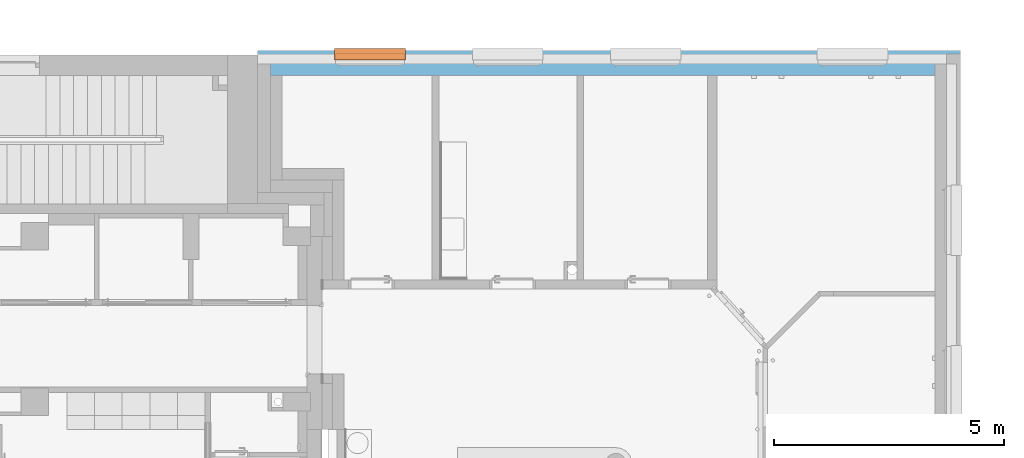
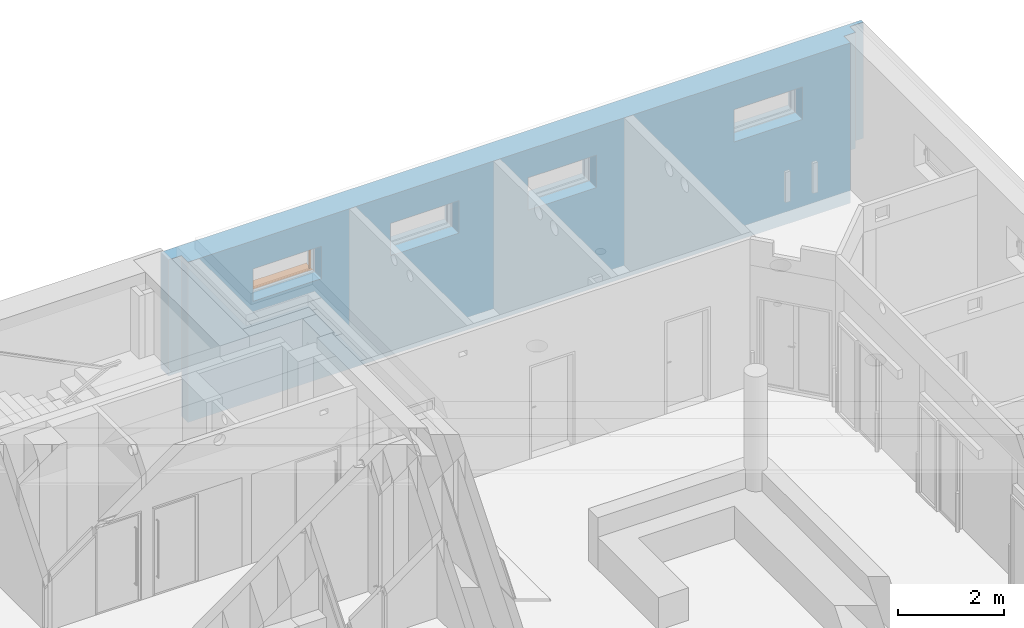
# One storey, part 124 of 140: 2 proxies, 4 openings, plus 1 element that does not belong to this part.
"""IFC4 building model written with IfcOpenShell, lengths in metres."""

from ifc_helpers import new_model, entity, si_unit, converted_unit, derived_unit, frame, origin, origin_with_axes, place, context, subcontext, project, spatial, polyline, outline, extrude, clip, bounded_halfspace, faceted_brep, source, transform, mapped, material, layer, layer_set, layer_usage, element, fill, save


model = new_model("IFC4")

# Units and contexts
model_context = context("Model", 3, precision=1e-05, world=origin())
body_context = subcontext(model_context, "Body", "Model", "MODEL_VIEW")
ifc_project = project(units=[si_unit("LENGTHUNIT", "METRE"), si_unit("AREAUNIT", "SQUARE_METRE"), si_unit("VOLUMEUNIT", "CUBIC_METRE"), si_unit("MASSUNIT", "GRAM", prefix="KILO"), converted_unit("PLANEANGLEUNIT", "DEGREE", entity("IfcPlaneAngleMeasure", 0.0174532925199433), si_unit("PLANEANGLEUNIT", "RADIAN"), dimensions=[0, 0, 0, 0, 0, 0, 0]), derived_unit("THERMALTRANSMITTANCEUNIT", [(si_unit("POWERUNIT", "WATT"), 1), (si_unit("THERMODYNAMICTEMPERATUREUNIT", "KELVIN"), -1), (si_unit("LENGTHUNIT", "METRE"), -2)]), derived_unit("VOLUMETRICFLOWRATEUNIT", [(si_unit("LENGTHUNIT", "METRE"), 3), (converted_unit("TIMEUNIT", "hour", entity("IfcTimeMeasure", 3600.0), si_unit("TIMEUNIT", "SECOND"), dimensions=[0, 0, 1, 0, 0, 0, 0]), -1), (si_unit("LENGTHUNIT", "METRE"), -1)])], contexts=[model_context])

# Site, building, storey
site_placement = place(None, origin())
site = spatial("IfcSite", under=ifc_project, at=site_placement, Name="3. ASŘ", CompositionType="ELEMENT")
building_placement = place(site_placement, origin())
building = spatial("IfcBuilding", under=site, at=building_placement, Name="Pavilon C", CompositionType="ELEMENT")
storey_placement = place(building_placement, origin())
storey = spatial("IfcBuildingStorey", under=building, at=storey_placement, Name="Půdorys 1.NP", CompositionType="ELEMENT", Elevation=0.0)

# Wall, openings, proxies
ifc_material_1 = material(Name="ZELEZOBETONOVÁ KCE")
ifc_layer_1 = layer(ifc_material_1, 0.25)
ifc_material_2 = material(Name="MINERÁLNÍ VATA")
ifc_layer_2 = layer(ifc_material_2, 0.3)
ifc_layer_set = layer_set([ifc_layer_1, ifc_layer_2])
ifc_layer_usage = layer_usage(ifc_layer_set, "AXIS2", "POSITIVE", 0.0)
wall_placement = place(storey_placement, frame((49.08, 32.3, -0.3)))
wall = element("IfcWall", 1, at=wall_placement, inside=storey, material=ifc_layer_usage, Name="ZELEZOBETONOVÁ KCE", context=body_context, shape_type="Clipping", body=[
    clip(extrude(outline(polyline([(0.280000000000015, 0.0), (14.75, 0.0), (14.75, 0.25), (15.0, 0.25), (15.0, 0.47), (15.3, 0.47), (15.3, 0.55), (0.0, 0.55), (0.0, 0.25), (0.280000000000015, 0.25), (0.280000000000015, 0.0)])), frame((-0.280000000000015, 0.0, 0.0), z_axis=(0.0, 0.0, 1.0), x_axis=(1.0, 0.0, 0.0)), (0.0, 0.0, 1.0), 3.7), bounded_halfspace(frame((9.17374999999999, 0.380000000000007, 1.02), z_axis=(0.0, 0.0, 1.0), x_axis=(0.0, -1.0, 0.0)), True, origin_with_axes(), polyline([(-0.280000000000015, 0.55), (-0.280000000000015, 0.250000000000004), (7.27595761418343e-15, 0.25), (14.47, 0.25), (14.72, 0.250000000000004), (14.72, 0.47), (15.02, 0.47), (15.02, 0.55), (-0.280000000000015, 0.55)]))),
])
opening_1_placement = place(wall_placement, frame((13.42, 0.25, 2.3), z_axis=(0.0, -1.0, 0.0), x_axis=(0.0, 0.0, 1.0)))
element("IfcOpeningElement", 2, at=opening_1_placement, cuts=wall, Name="Okenní otvor", ObjectType="Opening", context=body_context, shape_type="SweptSolid", body=[
    extrude(outline(polyline([(0.0, 1.5), (0.75, 1.5), (0.75, 0.0), (0.0, 0.0), (0.0, 1.5)])), origin_with_axes(), (0.0, 0.0, 1.0), 0.25),
    extrude(outline(polyline([(0.0, 1.5), (0.75, 1.5), (0.75, 0.0), (0.0, 0.0), (0.0, 1.5)])), frame((0.0, 0.0, -0.3), z_axis=(0.0, 0.0, 1.0), x_axis=(1.0, 0.0, 0.0)), (0.0, 0.0, 1.0), 0.3),
])
opening_2_placement = place(wall_placement, frame((8.92, 0.25, 2.3), z_axis=(0.0, -1.0, 0.0), x_axis=(0.0, 0.0, 1.0)))
element("IfcOpeningElement", 3, at=opening_2_placement, cuts=wall, Name="Okenní otvor", ObjectType="Opening", context=body_context, shape_type="SweptSolid", body=[
    extrude(outline(polyline([(0.0, 1.5), (0.75, 1.5), (0.75, 0.0), (0.0, 0.0), (0.0, 1.5)])), origin_with_axes(), (0.0, 0.0, 1.0), 0.25),
    extrude(outline(polyline([(0.0, 1.5), (0.75, 1.5), (0.75, 0.0), (0.0, 0.0), (0.0, 1.5)])), frame((0.0, 0.0, -0.3), z_axis=(0.0, 0.0, 1.0), x_axis=(1.0, 0.0, 0.0)), (0.0, 0.0, 1.0), 0.3),
])
opening_3_placement = place(wall_placement, frame((5.92, 0.25, 2.3), z_axis=(0.0, -1.0, 0.0), x_axis=(0.0, 0.0, 1.0)))
element("IfcOpeningElement", 4, at=opening_3_placement, cuts=wall, Name="Okenní otvor", ObjectType="Opening", context=body_context, shape_type="SweptSolid", body=[
    extrude(outline(polyline([(0.0, 1.5), (0.75, 1.5), (0.75, 0.0), (0.0, 0.0), (0.0, 1.5)])), origin_with_axes(), (0.0, 0.0, 1.0), 0.25),
    extrude(outline(polyline([(0.0, 1.5), (0.75, 1.5), (0.75, 0.0), (0.0, 0.0), (0.0, 1.5)])), frame((0.0, 0.0, -0.3), z_axis=(0.0, 0.0, 1.0), x_axis=(1.0, 0.0, 0.0)), (0.0, 0.0, 1.0), 0.3),
])
opening_4_placement = place(wall_placement, frame((2.92, 0.25, 2.3), z_axis=(0.0, -1.0, 0.0), x_axis=(0.0, 0.0, 1.0)))
opening_4 = element("IfcOpeningElement", 5, at=opening_4_placement, cuts=wall, Name="Okenní otvor", ObjectType="Opening", context=body_context, shape_type="SweptSolid", body=[
    extrude(outline(polyline([(0.0, 1.5), (0.75, 1.5), (0.75, 0.0), (0.0, 0.0), (0.0, 1.5)])), origin_with_axes(), (0.0, 0.0, 1.0), 0.25),
    extrude(outline(polyline([(0.0, 1.5), (0.75, 1.5), (0.75, 0.0), (0.0, 0.0), (0.0, 1.5)])), frame((0.0, 0.0, -0.3), z_axis=(0.0, 0.0, 1.0), x_axis=(1.0, 0.0, 0.0)), (0.0, 0.0, 1.0), 0.3),
])
ifc_material_3 = material(Name="HLINÍKOVÝ PLECH ELOXOVANÝ")
shared_shape_1 = source(origin_with_axes(), body_context, "Body", "Brep", [
    faceted_brep([(0.0, -0.3, 0.0), (0.0, -0.092, 0.0), (0.0, -0.092, 0.005), (0.0, -0.3, 0.005), (1.5, -0.3, 0.0), (1.5, -0.3, 0.005), (1.5, -0.092, 0.005), (1.5, -0.092, 0.0), (-0.02, -0.3, 0.0), (-0.02, -0.335, 0.0), (1.52, -0.335, 0.0), (1.52, -0.3, 0.0), (1.52, -0.3, 0.005), (1.52, -0.34, 0.005), (-0.02, -0.34, 0.005), (-0.02, -0.3, 0.005), (-0.02, -0.34, -0.025), (-0.02, -0.335, -0.025), (1.52, -0.335, -0.025), (1.52, -0.34, -0.025)], [[[0, 1, 2, 3]], [[4, 5, 6, 7]], [[1, 0, 8, 9, 10, 11, 4, 7]], [[2, 1, 7, 6]], [[3, 2, 6, 5, 12, 13, 14, 15]], [[8, 15, 14, 16, 17, 9]], [[11, 10, 18, 19, 13, 12]], [[15, 8, 0, 3]], [[5, 4, 11, 12]], [[16, 14, 13, 19]], [[17, 16, 19, 18]], [[9, 17, 18, 10]]], orient=[[False], [False], [False], [False], [False], [False], [False], [False], [False], [False], [False], [False]]),
    faceted_brep([(-0.02, -0.3, 0.0), (-0.02, -0.092, 0.0), (-0.02, -0.092, 0.005), (-0.02, -0.3, 0.005), (0.0, -0.3, 0.0), (0.0, -0.3, 0.005), (0.0, -0.092, 0.005), (0.0, -0.092, 0.0)], [[[0, 1, 2, 3]], [[4, 5, 6, 7]], [[1, 0, 4, 7]], [[2, 1, 7, 6]], [[3, 2, 6, 5]], [[0, 3, 5, 4]]], orient=[[False], [False], [False], [False], [False], [False]]),
    faceted_brep([(1.5, -0.3, 0.0), (1.5, -0.092, 0.0), (1.5, -0.092, 0.005), (1.5, -0.3, 0.005), (1.52, -0.3, 0.0), (1.52, -0.3, 0.005), (1.52, -0.092, 0.005), (1.52, -0.092, 0.0)], [[[0, 1, 2, 3]], [[4, 5, 6, 7]], [[1, 0, 4, 7]], [[2, 1, 7, 6]], [[3, 2, 6, 5]], [[0, 3, 5, 4]]], orient=[[False], [False], [False], [False], [False], [False]]),
])
proxy_1_placement = place(opening_4_placement, frame((0.0, 0.0, 0.0), z_axis=(1.0, 0.0, 0.0), x_axis=(0.0, 1.0, 0.0)))
proxy_1 = element("IfcBuildingElementProxy", 6, at=proxy_1_placement, inside=storey, material=ifc_material_3, Name="Parapet vnější", context=body_context, shape_type="MappedRepresentation", body=[
    mapped(shared_shape_1, transform((0.0, 0.0, 0.0), x_axis=(1.0, 0.0, 0.0), y_axis=(0.0, 1.0, 0.0), z_axis=(0.0, 0.0, 1.0), scale=1.0)),
])
fill(opening_4, proxy_1)
shared_shape_2 = source(origin_with_axes(), body_context, "Body", "Brep", [
    faceted_brep([(0.0, -0.232, 0.75), (0.0, -0.23, 0.75), (0.0, -0.23, 0.948), (0.0, -0.094, 0.948), (0.0, -0.094, 0.75), (0.0, -0.092, 0.75), (0.0, -0.092, 0.95), (0.0, -0.232, 0.95), (1.5, -0.23, 0.75), (1.5, -0.232, 0.75), (1.5, -0.232, 0.95), (1.5, -0.092, 0.95), (1.5, -0.092, 0.75), (1.5, -0.094, 0.75), (1.5, -0.094, 0.948), (1.5, -0.23, 0.948)], [[[0, 1, 2, 3, 4, 5, 6, 7]], [[8, 9, 10, 11, 12, 13, 14, 15]], [[1, 0, 9, 8]], [[2, 1, 8, 15]], [[3, 2, 15, 14]], [[4, 3, 14, 13]], [[5, 4, 13, 12]], [[6, 5, 12, 11]], [[7, 6, 11, 10]], [[0, 7, 10, 9]]], orient=[[False], [False], [False], [False], [False], [False], [False], [False], [False], [False]]),
    faceted_brep([(0.0, -0.23, 0.75), (0.0, -0.094, 0.75), (0.0, -0.094, 0.948), (0.0, -0.23, 0.948), (0.002, -0.094, 0.75), (0.002, -0.23, 0.75), (0.002, -0.23, 0.948), (0.002, -0.094, 0.948)], [[[0, 1, 2, 3]], [[4, 5, 6, 7]], [[1, 0, 5, 4]], [[2, 1, 4, 7]], [[3, 2, 7, 6]], [[0, 3, 6, 5]]], orient=[[False], [False], [False], [False], [False], [False]]),
    faceted_brep([(1.498, -0.23, 0.75), (1.498, -0.094, 0.75), (1.498, -0.094, 0.948), (1.498, -0.23, 0.948), (1.5, -0.094, 0.75), (1.5, -0.23, 0.75), (1.5, -0.23, 0.948), (1.5, -0.094, 0.948)], [[[0, 1, 2, 3]], [[4, 5, 6, 7]], [[1, 0, 5, 4]], [[2, 1, 4, 7]], [[3, 2, 7, 6]], [[0, 3, 6, 5]]], orient=[[False], [False], [False], [False], [False], [False]]),
    faceted_brep([(0.002, -0.152, 0.0), (0.002, -0.172, 0.0), (0.042, -0.172, 0.0), (0.042, -0.152, 0.0), (0.002, -0.172, 0.769), (0.002, -0.152, 0.769), (0.042, -0.152, 0.769), (0.042, -0.172, 0.769)], [[[0, 1, 2, 3]], [[4, 5, 6, 7]], [[1, 0, 5, 4]], [[2, 1, 4, 7]], [[3, 2, 7, 6]], [[0, 3, 6, 5]]], orient=[[False], [False], [False], [False], [False], [False]]),
    faceted_brep([(1.458, -0.152, 0.0), (1.458, -0.172, 0.0), (1.498, -0.172, 0.0), (1.498, -0.152, 0.0), (1.458, -0.172, 0.769), (1.458, -0.152, 0.769), (1.498, -0.152, 0.769), (1.498, -0.172, 0.769)], [[[0, 1, 2, 3]], [[4, 5, 6, 7]], [[1, 0, 5, 4]], [[2, 1, 4, 7]], [[3, 2, 7, 6]], [[0, 3, 6, 5]]], orient=[[False], [False], [False], [False], [False], [False]]),
    faceted_brep([(0.042, -0.122, 0.6021), (0.042, -0.202, 0.6021), (0.042, -0.202, 0.5871), (0.042, -0.122, 0.5871), (1.458, -0.202, 0.6021), (1.458, -0.122, 0.6021), (1.458, -0.122, 0.5871), (1.458, -0.202, 0.5871)], [[[0, 1, 2, 3]], [[4, 5, 6, 7]], [[1, 0, 5, 4]], [[2, 1, 4, 7]], [[3, 2, 7, 6]], [[0, 3, 6, 5]]], orient=[[False], [False], [False], [False], [False], [False]]),
    faceted_brep([(0.042, -0.122, 0.6031), (0.042, -0.202, 0.6031), (0.042, -0.202, 0.6021), (0.042, -0.122, 0.6021), (1.458, -0.202, 0.6031), (1.458, -0.122, 0.6031), (1.458, -0.122, 0.6021), (1.458, -0.202, 0.6021)], [[[0, 1, 2, 3]], [[4, 5, 6, 7]], [[1, 0, 5, 4]], [[2, 1, 4, 7]], [[3, 2, 7, 6]], [[0, 3, 6, 5]]], orient=[[False], [False], [False], [False], [False], [False]]),
    faceted_brep([(0.042, -0.122, 0.6041), (0.042, -0.202, 0.6041), (0.042, -0.202, 0.6031), (0.042, -0.122, 0.6031), (1.458, -0.202, 0.6041), (1.458, -0.122, 0.6041), (1.458, -0.122, 0.6031), (1.458, -0.202, 0.6031)], [[[0, 1, 2, 3]], [[4, 5, 6, 7]], [[1, 0, 5, 4]], [[2, 1, 4, 7]], [[3, 2, 7, 6]], [[0, 3, 6, 5]]], orient=[[False], [False], [False], [False], [False], [False]]),
    faceted_brep([(0.042, -0.122, 0.6051), (0.042, -0.202, 0.6051), (0.042, -0.202, 0.6041), (0.042, -0.122, 0.6041), (1.458, -0.202, 0.6051), (1.458, -0.122, 0.6051), (1.458, -0.122, 0.6041), (1.458, -0.202, 0.6041)], [[[0, 1, 2, 3]], [[4, 5, 6, 7]], [[1, 0, 5, 4]], [[2, 1, 4, 7]], [[3, 2, 7, 6]], [[0, 3, 6, 5]]], orient=[[False], [False], [False], [False], [False], [False]]),
    faceted_brep([(0.042, -0.122, 0.6061), (0.042, -0.202, 0.6061), (0.042, -0.202, 0.6051), (0.042, -0.122, 0.6051), (1.458, -0.202, 0.6061), (1.458, -0.122, 0.6061), (1.458, -0.122, 0.6051), (1.458, -0.202, 0.6051)], [[[0, 1, 2, 3]], [[4, 5, 6, 7]], [[1, 0, 5, 4]], [[2, 1, 4, 7]], [[3, 2, 7, 6]], [[0, 3, 6, 5]]], orient=[[False], [False], [False], [False], [False], [False]]),
    faceted_brep([(0.042, -0.122, 0.6071), (0.042, -0.202, 0.6071), (0.042, -0.202, 0.6061), (0.042, -0.122, 0.6061), (1.458, -0.202, 0.6071), (1.458, -0.122, 0.6071), (1.458, -0.122, 0.6061), (1.458, -0.202, 0.6061)], [[[0, 1, 2, 3]], [[4, 5, 6, 7]], [[1, 0, 5, 4]], [[2, 1, 4, 7]], [[3, 2, 7, 6]], [[0, 3, 6, 5]]], orient=[[False], [False], [False], [False], [False], [False]]),
    faceted_brep([(0.042, -0.122, 0.6081), (0.042, -0.202, 0.6081), (0.042, -0.202, 0.6071), (0.042, -0.122, 0.6071), (1.458, -0.202, 0.6081), (1.458, -0.122, 0.6081), (1.458, -0.122, 0.6071), (1.458, -0.202, 0.6071)], [[[0, 1, 2, 3]], [[4, 5, 6, 7]], [[1, 0, 5, 4]], [[2, 1, 4, 7]], [[3, 2, 7, 6]], [[0, 3, 6, 5]]], orient=[[False], [False], [False], [False], [False], [False]]),
    faceted_brep([(0.042, -0.122, 0.6091), (0.042, -0.202, 0.6091), (0.042, -0.202, 0.6081), (0.042, -0.122, 0.6081), (1.458, -0.202, 0.6091), (1.458, -0.122, 0.6091), (1.458, -0.122, 0.6081), (1.458, -0.202, 0.6081)], [[[0, 1, 2, 3]], [[4, 5, 6, 7]], [[1, 0, 5, 4]], [[2, 1, 4, 7]], [[3, 2, 7, 6]], [[0, 3, 6, 5]]], orient=[[False], [False], [False], [False], [False], [False]]),
    faceted_brep([(0.042, -0.122, 0.6101), (0.042, -0.202, 0.6101), (0.042, -0.202, 0.6091), (0.042, -0.122, 0.6091), (1.458, -0.202, 0.6101), (1.458, -0.122, 0.6101), (1.458, -0.122, 0.6091), (1.458, -0.202, 0.6091)], [[[0, 1, 2, 3]], [[4, 5, 6, 7]], [[1, 0, 5, 4]], [[2, 1, 4, 7]], [[3, 2, 7, 6]], [[0, 3, 6, 5]]], orient=[[False], [False], [False], [False], [False], [False]]),
    faceted_brep([(0.042, -0.122, 0.6111), (0.042, -0.202, 0.6111), (0.042, -0.202, 0.6101), (0.042, -0.122, 0.6101), (1.458, -0.202, 0.6111), (1.458, -0.122, 0.6111), (1.458, -0.122, 0.6101), (1.458, -0.202, 0.6101)], [[[0, 1, 2, 3]], [[4, 5, 6, 7]], [[1, 0, 5, 4]], [[2, 1, 4, 7]], [[3, 2, 7, 6]], [[0, 3, 6, 5]]], orient=[[False], [False], [False], [False], [False], [False]]),
    faceted_brep([(0.042, -0.122, 0.6121), (0.042, -0.202, 0.6121), (0.042, -0.202, 0.6111), (0.042, -0.122, 0.6111), (1.458, -0.202, 0.6121), (1.458, -0.122, 0.6121), (1.458, -0.122, 0.6111), (1.458, -0.202, 0.6111)], [[[0, 1, 2, 3]], [[4, 5, 6, 7]], [[1, 0, 5, 4]], [[2, 1, 4, 7]], [[3, 2, 7, 6]], [[0, 3, 6, 5]]], orient=[[False], [False], [False], [False], [False], [False]]),
    faceted_brep([(0.042, -0.122, 0.6131), (0.042, -0.202, 0.6131), (0.042, -0.202, 0.6121), (0.042, -0.122, 0.6121), (1.458, -0.202, 0.6131), (1.458, -0.122, 0.6131), (1.458, -0.122, 0.6121), (1.458, -0.202, 0.6121)], [[[0, 1, 2, 3]], [[4, 5, 6, 7]], [[1, 0, 5, 4]], [[2, 1, 4, 7]], [[3, 2, 7, 6]], [[0, 3, 6, 5]]], orient=[[False], [False], [False], [False], [False], [False]]),
    faceted_brep([(0.042, -0.122, 0.6141), (0.042, -0.202, 0.6141), (0.042, -0.202, 0.6131), (0.042, -0.122, 0.6131), (1.458, -0.202, 0.6141), (1.458, -0.122, 0.6141), (1.458, -0.122, 0.6131), (1.458, -0.202, 0.6131)], [[[0, 1, 2, 3]], [[4, 5, 6, 7]], [[1, 0, 5, 4]], [[2, 1, 4, 7]], [[3, 2, 7, 6]], [[0, 3, 6, 5]]], orient=[[False], [False], [False], [False], [False], [False]]),
    faceted_brep([(0.042, -0.122, 0.6151), (0.042, -0.202, 0.6151), (0.042, -0.202, 0.6141), (0.042, -0.122, 0.6141), (1.458, -0.202, 0.6151), (1.458, -0.122, 0.6151), (1.458, -0.122, 0.6141), (1.458, -0.202, 0.6141)], [[[0, 1, 2, 3]], [[4, 5, 6, 7]], [[1, 0, 5, 4]], [[2, 1, 4, 7]], [[3, 2, 7, 6]], [[0, 3, 6, 5]]], orient=[[False], [False], [False], [False], [False], [False]]),
    faceted_brep([(0.042, -0.122, 0.6161), (0.042, -0.202, 0.6161), (0.042, -0.202, 0.6151), (0.042, -0.122, 0.6151), (1.458, -0.202, 0.6161), (1.458, -0.122, 0.6161), (1.458, -0.122, 0.6151), (1.458, -0.202, 0.6151)], [[[0, 1, 2, 3]], [[4, 5, 6, 7]], [[1, 0, 5, 4]], [[2, 1, 4, 7]], [[3, 2, 7, 6]], [[0, 3, 6, 5]]], orient=[[False], [False], [False], [False], [False], [False]]),
    faceted_brep([(0.042, -0.123299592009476, 0.645125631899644), (0.042, -0.20094141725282, 0.625844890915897), (0.042, -0.200700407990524, 0.624874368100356), (0.042, -0.12305858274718, 0.644155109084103), (1.458, -0.20094141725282, 0.625844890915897), (1.458, -0.123299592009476, 0.645125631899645), (1.458, -0.12305858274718, 0.644155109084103), (1.458, -0.200700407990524, 0.624874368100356)], [[[0, 1, 2, 3]], [[4, 5, 6, 7]], [[1, 0, 5, 4]], [[2, 1, 4, 7]], [[3, 2, 7, 6]], [[0, 3, 6, 5]]], orient=[[False], [False], [False], [False], [False], [False]]),
    faceted_brep([(0.042, -0.127608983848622, 0.700433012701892), (0.042, -0.196891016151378, 0.660433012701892), (0.042, -0.196391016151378, 0.659566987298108), (0.042, -0.127108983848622, 0.699566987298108), (1.458, -0.196891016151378, 0.660433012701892), (1.458, -0.127608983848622, 0.700433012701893), (1.458, -0.127108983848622, 0.699566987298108), (1.458, -0.196391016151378, 0.659566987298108)], [[[0, 1, 2, 3]], [[4, 5, 6, 7]], [[1, 0, 5, 4]], [[2, 1, 4, 7]], [[3, 2, 7, 6]], [[0, 3, 6, 5]]], orient=[[False], [False], [False], [False], [False], [False]]),
    faceted_brep([(0.042, -0.127608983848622, 0.745433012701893), (0.042, -0.196891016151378, 0.705433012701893), (0.042, -0.196391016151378, 0.704566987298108), (0.042, -0.127108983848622, 0.744566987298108), (1.458, -0.196891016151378, 0.705433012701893), (1.458, -0.127608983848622, 0.745433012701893), (1.458, -0.127108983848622, 0.744566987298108), (1.458, -0.196391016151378, 0.704566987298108)], [[[0, 1, 2, 3]], [[4, 5, 6, 7]], [[1, 0, 5, 4]], [[2, 1, 4, 7]], [[3, 2, 7, 6]], [[0, 3, 6, 5]]], orient=[[False], [False], [False], [False], [False], [False]]),
])
proxy_2_placement = place(opening_4_placement, frame((0.0, 0.0, 0.0), z_axis=(1.0, 0.0, 0.0), x_axis=(0.0, 1.0, 0.0)))
proxy_2 = element("IfcBuildingElementProxy", 7, at=proxy_2_placement, inside=storey, Name="Žaluzie", context=body_context, shape_type="MappedRepresentation", body=[
    mapped(shared_shape_2, transform((0.0, 0.0, 0.0), x_axis=(1.0, 0.0, 0.0), y_axis=(0.0, 1.0, 0.0), z_axis=(0.0, 0.0, 1.0), scale=1.0)),
])
fill(opening_4, proxy_2)

save(model, "model.ifc")
